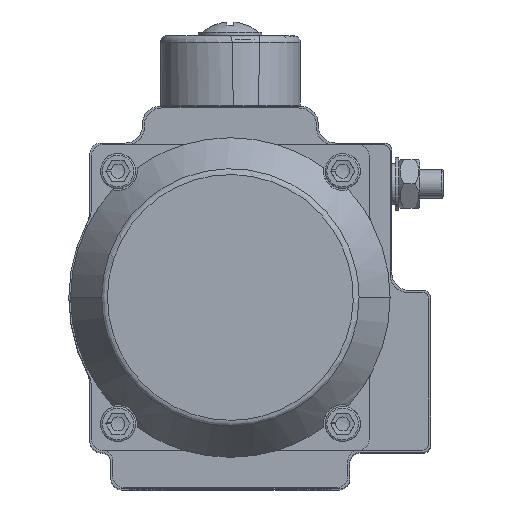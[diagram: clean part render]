
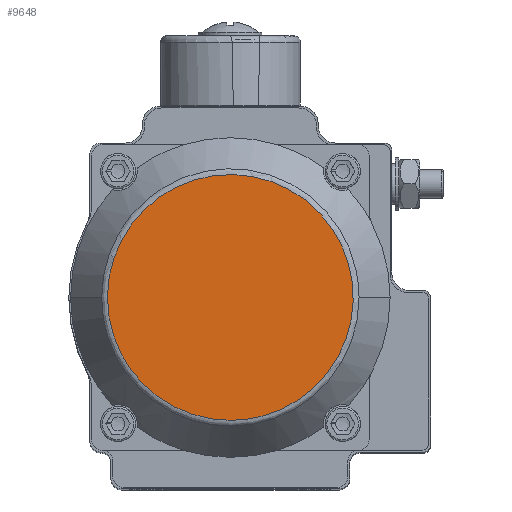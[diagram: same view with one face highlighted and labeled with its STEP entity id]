
A CAD part, top view. The second image highlights one B-rep face of the part: STEP entity #9648.
In plain terms, the highlighted planar face has unit normal (0, 0, 1).
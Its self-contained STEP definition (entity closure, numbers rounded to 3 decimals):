
#9648=ADVANCED_FACE('',(#21831),#21833,.T.);
#21831=FACE_BOUND('',#21832,.T.);
#21832=EDGE_LOOP('',(#28615));
#21833=PLANE('',#21834);
#21834=AXIS2_PLACEMENT_3D('',#21835,#21836,#21837);
#21835=CARTESIAN_POINT('',(898.199,402.443,105.));
#21836=DIRECTION('',(0.,0.,1.));
#21837=DIRECTION('',(1.,0.,0.));
#28615=ORIENTED_EDGE('',*,*,#31486,.F.);
#31486=EDGE_CURVE('',#35706,#35706,#35707,.T.);
#35706=VERTEX_POINT('',#65898);
#35707=B_SPLINE_CURVE_WITH_KNOTS('',3,
(#65899,#65900,#65901,#65902,#65903,#65904,#65905,#65906,#65907,#65908,#65909,#65910,
#65911,#65912,#65913,#65914,#65915,#65916,#65917,#65918,#65919,#65920,#65921,#65922,
#65923,#65924,#65925,#65926,#65927,#65928,#65929,#65930,#65931,#65932,#65933,#65934,
#65935,#65936,#65937,#65938,#65939,#65940,#65941,#65942,#65943,#65944,#65945,#65946,
#65947,#65948,#65949,#65950,#65951,#65952,#65953,#65954,#65955,#65956,#65957,#65958,
#65959,#65960,#65961,#65962,#65963,#65964,#65965,#65966,#65967,#65968,#65969,#65970,
#65971,#65972,#65973,#65974,#65975,#65976,#65977,#65978,#65979,#65980,#65981,#65982,
#65983,#65984,#65985,#65986,#65987,#65988,#65989,#65990,#65991,#65992,#65993,#65994,
#65995,#65996,#65997,#65998,#65999,#66000,#66001),
.UNSPECIFIED.,.T.,.F.,
(4,1,1,1,1,1,1,1,1,1,1,1,1,1,1,1,1,1,1,1,1,1,1,1,1,1,1,1,1,1,1,1,1,1,1,1,1,1,1,1,
1,1,1,1,1,1,1,1,1,1,1,1,1,1,1,1,1,1,1,1,1,1,1,1,1,1,1,1,1,1,1,1,1,1,1,1,1,1,1,1,
1,1,1,1,1,1,1,1,1,1,1,1,1,1,1,1,1,1,1,1,4),
(0.,0.01,0.02,0.03,0.04,
0.05,0.06,0.07,0.08,0.09,
0.1,0.11,0.12,0.13,0.14,
0.15,0.16,0.17,0.18,0.19,
0.2,0.21,0.22,0.23,0.24,
0.25,0.26,0.27,0.28,0.29,
0.3,0.31,0.32,0.33,0.34,
0.35,0.36,0.37,0.38,0.39,
0.4,0.41,0.42,0.43,0.44,
0.45,0.46,0.47,0.48,0.49,
0.501,0.511,0.521,0.531,0.541,
0.551,0.561,0.571,0.581,0.591,
0.601,0.611,0.621,0.631,0.641,
0.651,0.661,0.671,0.681,0.691,
0.701,0.711,0.721,0.731,0.741,
0.751,0.761,0.771,0.781,0.791,
0.801,0.811,0.821,0.831,0.841,
0.851,0.861,0.871,0.881,0.891,
0.901,0.911,0.921,0.931,0.941,
0.951,0.961,0.971,0.981,0.991,
1.),
.UNSPECIFIED.);
#65898=CARTESIAN_POINT('',(898.407,367.451,105.));
#65899=CARTESIAN_POINT('',(898.407,367.451,105.));
#65900=CARTESIAN_POINT('',(897.674,367.446,105.));
#65901=CARTESIAN_POINT('',(896.208,367.484,105.));
#65902=CARTESIAN_POINT('',(894.016,367.678,105.));
#65903=CARTESIAN_POINT('',(891.841,368.009,105.));
#65904=CARTESIAN_POINT('',(889.692,368.476,105.));
#65905=CARTESIAN_POINT('',(887.575,369.077,105.));
#65906=CARTESIAN_POINT('',(885.501,369.81,105.));
#65907=CARTESIAN_POINT('',(883.477,370.672,105.));
#65908=CARTESIAN_POINT('',(881.511,371.659,105.));
#65909=CARTESIAN_POINT('',(879.611,372.768,105.));
#65910=CARTESIAN_POINT('',(877.784,373.994,105.));
#65911=CARTESIAN_POINT('',(876.038,375.332,105.));
#65912=CARTESIAN_POINT('',(874.379,376.777,105.));
#65913=CARTESIAN_POINT('',(872.814,378.323,105.));
#65914=CARTESIAN_POINT('',(871.35,379.965,105.));
#65915=CARTESIAN_POINT('',(869.991,381.695,105.));
#65916=CARTESIAN_POINT('',(868.744,383.508,105.));
#65917=CARTESIAN_POINT('',(867.613,385.395,105.));
#65918=CARTESIAN_POINT('',(866.603,387.349,105.));
#65919=CARTESIAN_POINT('',(865.717,389.363,105.));
#65920=CARTESIAN_POINT('',(864.96,391.428,105.));
#65921=CARTESIAN_POINT('',(864.334,393.537,105.));
#65922=CARTESIAN_POINT('',(863.842,395.682,105.));
#65923=CARTESIAN_POINT('',(863.485,397.852,105.));
#65924=CARTESIAN_POINT('',(863.265,400.041,105.));
#65925=CARTESIAN_POINT('',(863.183,402.24,105.));
#65926=CARTESIAN_POINT('',(863.239,404.439,105.));
#65927=CARTESIAN_POINT('',(863.434,406.63,105.));
#65928=CARTESIAN_POINT('',(863.765,408.805,105.));
#65929=CARTESIAN_POINT('',(864.233,410.955,105.));
#65930=CARTESIAN_POINT('',(864.834,413.071,105.));
#65931=CARTESIAN_POINT('',(865.567,415.145,105.));
#65932=CARTESIAN_POINT('',(866.429,417.169,105.));
#65933=CARTESIAN_POINT('',(867.417,419.135,105.));
#65934=CARTESIAN_POINT('',(868.526,421.035,105.));
#65935=CARTESIAN_POINT('',(869.752,422.862,105.));
#65936=CARTESIAN_POINT('',(871.09,424.608,105.));
#65937=CARTESIAN_POINT('',(872.536,426.267,105.));
#65938=CARTESIAN_POINT('',(874.082,427.831,105.));
#65939=CARTESIAN_POINT('',(875.724,429.295,105.));
#65940=CARTESIAN_POINT('',(877.455,430.654,105.));
#65941=CARTESIAN_POINT('',(879.267,431.901,105.));
#65942=CARTESIAN_POINT('',(881.154,433.031,105.));
#65943=CARTESIAN_POINT('',(883.109,434.041,105.));
#65944=CARTESIAN_POINT('',(885.123,434.927,105.));
#65945=CARTESIAN_POINT('',(887.188,435.684,105.));
#65946=CARTESIAN_POINT('',(889.297,436.31,105.));
#65947=CARTESIAN_POINT('',(891.441,436.802,105.));
#65948=CARTESIAN_POINT('',(893.612,437.158,105.));
#65949=CARTESIAN_POINT('',(895.857,437.383,105.));
#65950=CARTESIAN_POINT('',(898.111,437.462,105.));
#65951=CARTESIAN_POINT('',(900.366,437.393,105.));
#65952=CARTESIAN_POINT('',(902.557,437.188,105.));
#65953=CARTESIAN_POINT('',(904.73,436.845,105.));
#65954=CARTESIAN_POINT('',(906.877,436.367,105.));
#65955=CARTESIAN_POINT('',(908.99,435.756,105.));
#65956=CARTESIAN_POINT('',(911.061,435.012,105.));
#65957=CARTESIAN_POINT('',(913.081,434.14,105.));
#65958=CARTESIAN_POINT('',(915.042,433.143,105.));
#65959=CARTESIAN_POINT('',(916.936,432.025,105.));
#65960=CARTESIAN_POINT('',(918.757,430.79,105.));
#65961=CARTESIAN_POINT('',(920.496,429.443,105.));
#65962=CARTESIAN_POINT('',(922.148,427.99,105.));
#65963=CARTESIAN_POINT('',(923.705,426.435,105.));
#65964=CARTESIAN_POINT('',(925.161,424.786,105.));
#65965=CARTESIAN_POINT('',(926.511,423.049,105.));
#65966=CARTESIAN_POINT('',(927.749,421.231,105.));
#65967=CARTESIAN_POINT('',(928.87,419.338,105.));
#65968=CARTESIAN_POINT('',(929.871,417.378,105.));
#65969=CARTESIAN_POINT('',(930.746,415.36,105.));
#65970=CARTESIAN_POINT('',(931.493,413.291,105.));
#65971=CARTESIAN_POINT('',(932.108,411.179,105.));
#65972=CARTESIAN_POINT('',(932.59,409.032,105.));
#65973=CARTESIAN_POINT('',(932.936,406.86,105.));
#65974=CARTESIAN_POINT('',(933.145,404.67,105.));
#65975=CARTESIAN_POINT('',(933.215,402.471,105.));
#65976=CARTESIAN_POINT('',(933.148,400.272,105.));
#65977=CARTESIAN_POINT('',(932.943,398.081,105.));
#65978=CARTESIAN_POINT('',(932.6,395.908,105.));
#65979=CARTESIAN_POINT('',(932.122,393.761,105.));
#65980=CARTESIAN_POINT('',(931.51,391.648,105.));
#65981=CARTESIAN_POINT('',(930.766,389.577,105.));
#65982=CARTESIAN_POINT('',(929.894,387.558,105.));
#65983=CARTESIAN_POINT('',(928.897,385.597,105.));
#65984=CARTESIAN_POINT('',(927.778,383.702,105.));
#65985=CARTESIAN_POINT('',(926.543,381.882,105.));
#65986=CARTESIAN_POINT('',(925.196,380.143,105.));
#65987=CARTESIAN_POINT('',(923.742,378.491,105.));
#65988=CARTESIAN_POINT('',(922.188,376.935,105.));
#65989=CARTESIAN_POINT('',(920.538,375.479,105.));
#65990=CARTESIAN_POINT('',(918.801,374.129,105.));
#65991=CARTESIAN_POINT('',(916.982,372.891,105.));
#65992=CARTESIAN_POINT('',(915.09,371.77,105.));
#65993=CARTESIAN_POINT('',(913.13,370.77,105.));
#65994=CARTESIAN_POINT('',(911.112,369.895,105.));
#65995=CARTESIAN_POINT('',(909.042,369.148,105.));
#65996=CARTESIAN_POINT('',(906.93,368.533,105.));
#65997=CARTESIAN_POINT('',(904.783,368.052,105.));
#65998=CARTESIAN_POINT('',(902.611,367.706,105.));
#65999=CARTESIAN_POINT('',(900.482,367.503,105.));
#66000=CARTESIAN_POINT('',(899.078,367.455,105.));
#66001=CARTESIAN_POINT('',(898.407,367.451,105.));
